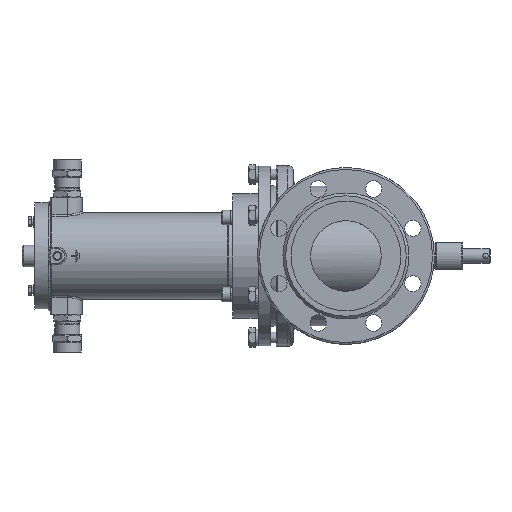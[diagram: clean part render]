
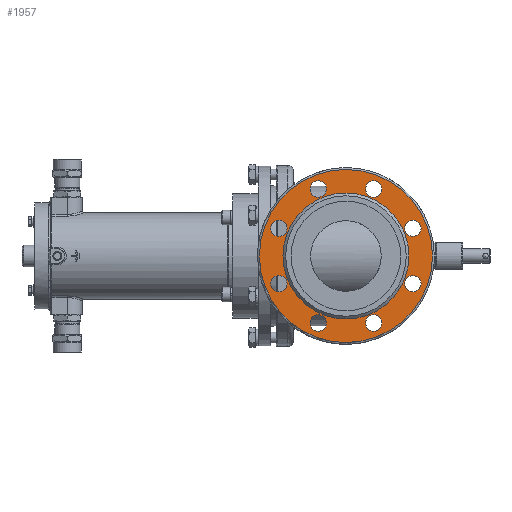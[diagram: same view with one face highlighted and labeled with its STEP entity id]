
A CAD part, left-side view. The second image highlights one B-rep face of the part: STEP entity #1957.
In plain terms, the highlighted planar face has unit normal (-1, 0, 0).
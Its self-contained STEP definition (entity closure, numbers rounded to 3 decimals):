
#1957=ADVANCED_FACE('',(#22015,#22017,#22019,#22021,#22023,#22025,#22027,#22029,
#22031,#22033),#22035,.T.);
#22015=FACE_BOUND('',#22016,.T.);
#22016=EDGE_LOOP('',(#33486));
#22017=FACE_BOUND('',#22018,.T.);
#22018=EDGE_LOOP('',(#33487));
#22019=FACE_BOUND('',#22020,.T.);
#22020=EDGE_LOOP('',(#33488));
#22021=FACE_BOUND('',#22022,.T.);
#22022=EDGE_LOOP('',(#33489));
#22023=FACE_BOUND('',#22024,.T.);
#22024=EDGE_LOOP('',(#33490));
#22025=FACE_BOUND('',#22026,.T.);
#22026=EDGE_LOOP('',(#33491));
#22027=FACE_BOUND('',#22028,.T.);
#22028=EDGE_LOOP('',(#33492));
#22029=FACE_BOUND('',#22030,.T.);
#22030=EDGE_LOOP('',(#33493));
#22031=FACE_BOUND('',#22032,.T.);
#22032=EDGE_LOOP('',(#33494));
#22033=FACE_OUTER_BOUND('',#22034,.T.);
#22034=EDGE_LOOP('',(#33495));
#22035=PLANE('',#22036);
#22036=AXIS2_PLACEMENT_3D('',#22037,#22038,#22039);
#22037=CARTESIAN_POINT('',(-151.,0.,0.));
#22038=DIRECTION('',(-1.,0.,0.));
#22039=DIRECTION('',(0.,1.,0.));
#33486=ORIENTED_EDGE('',*,*,#41424,.T.);
#33487=ORIENTED_EDGE('',*,*,#41422,.T.);
#33488=ORIENTED_EDGE('',*,*,#41420,.T.);
#33489=ORIENTED_EDGE('',*,*,#41418,.T.);
#33490=ORIENTED_EDGE('',*,*,#41416,.T.);
#33491=ORIENTED_EDGE('',*,*,#41414,.T.);
#33492=ORIENTED_EDGE('',*,*,#41412,.T.);
#33493=ORIENTED_EDGE('',*,*,#41410,.T.);
#33494=ORIENTED_EDGE('',*,*,#41449,.F.);
#33495=ORIENTED_EDGE('',*,*,#41450,.T.);
#41410=EDGE_CURVE('',#49886,#49886,#49888,.T.);
#41412=EDGE_CURVE('',#49889,#49889,#49891,.T.);
#41414=EDGE_CURVE('',#49892,#49892,#49894,.T.);
#41416=EDGE_CURVE('',#49895,#49895,#49897,.T.);
#41418=EDGE_CURVE('',#49898,#49898,#49900,.T.);
#41420=EDGE_CURVE('',#49901,#49901,#49903,.T.);
#41422=EDGE_CURVE('',#49904,#49904,#49906,.T.);
#41424=EDGE_CURVE('',#49907,#49907,#49909,.T.);
#41449=EDGE_CURVE('',#49948,#49948,#49949,.T.);
#41450=EDGE_CURVE('',#49950,#49950,#49951,.T.);
#49886=VERTEX_POINT('',#80312);
#49888=CIRCLE('',#80316,9.);
#49889=VERTEX_POINT('',#80320);
#49891=CIRCLE('',#80324,9.);
#49892=VERTEX_POINT('',#80328);
#49894=CIRCLE('',#80332,9.);
#49895=VERTEX_POINT('',#80336);
#49897=CIRCLE('',#80340,9.);
#49898=VERTEX_POINT('',#80344);
#49900=CIRCLE('',#80348,9.);
#49901=VERTEX_POINT('',#80352);
#49903=CIRCLE('',#80356,9.);
#49904=VERTEX_POINT('',#80360);
#49906=CIRCLE('',#80364,9.);
#49907=VERTEX_POINT('',#80368);
#49909=CIRCLE('',#80372,9.);
#49948=VERTEX_POINT('',#80677);
#49949=CIRCLE('',#80678,69.5);
#49950=VERTEX_POINT('',#80682);
#49951=CIRCLE('',#80683,95.5);
#80312=CARTESIAN_POINT('',(-151.,30.615,64.91));
#80316=AXIS2_PLACEMENT_3D('',#80317,#80318,#80319);
#80317=CARTESIAN_POINT('',(-151.,30.615,73.91));
#80318=DIRECTION('',(1.,0.,0.));
#80319=DIRECTION('',(0.,-1.,0.));
#80320=CARTESIAN_POINT('',(-151.,30.615,-82.91));
#80324=AXIS2_PLACEMENT_3D('',#80325,#80326,#80327);
#80325=CARTESIAN_POINT('',(-151.,30.615,-73.91));
#80326=DIRECTION('',(1.,0.,0.));
#80327=DIRECTION('',(0.,-1.,0.));
#80328=CARTESIAN_POINT('',(-151.,73.91,21.615));
#80332=AXIS2_PLACEMENT_3D('',#80333,#80334,#80335);
#80333=CARTESIAN_POINT('',(-151.,73.91,30.615));
#80334=DIRECTION('',(1.,0.,0.));
#80335=DIRECTION('',(0.,-1.,0.));
#80336=CARTESIAN_POINT('',(-151.,-30.615,-82.91));
#80340=AXIS2_PLACEMENT_3D('',#80341,#80342,#80343);
#80341=CARTESIAN_POINT('',(-151.,-30.615,-73.91));
#80342=DIRECTION('',(1.,0.,0.));
#80343=DIRECTION('',(0.,-1.,0.));
#80344=CARTESIAN_POINT('',(-151.,-73.91,21.615));
#80348=AXIS2_PLACEMENT_3D('',#80349,#80350,#80351);
#80349=CARTESIAN_POINT('',(-151.,-73.91,30.615));
#80350=DIRECTION('',(1.,0.,0.));
#80351=DIRECTION('',(0.,-1.,0.));
#80352=CARTESIAN_POINT('',(-151.,-30.615,64.91));
#80356=AXIS2_PLACEMENT_3D('',#80357,#80358,#80359);
#80357=CARTESIAN_POINT('',(-151.,-30.615,73.91));
#80358=DIRECTION('',(1.,0.,0.));
#80359=DIRECTION('',(0.,-1.,0.));
#80360=CARTESIAN_POINT('',(-151.,73.91,-39.615));
#80364=AXIS2_PLACEMENT_3D('',#80365,#80366,#80367);
#80365=CARTESIAN_POINT('',(-151.,73.91,-30.615));
#80366=DIRECTION('',(1.,0.,0.));
#80367=DIRECTION('',(0.,-1.,0.));
#80368=CARTESIAN_POINT('',(-151.,-73.91,-39.615));
#80372=AXIS2_PLACEMENT_3D('',#80373,#80374,#80375);
#80373=CARTESIAN_POINT('',(-151.,-73.91,-30.615));
#80374=DIRECTION('',(1.,0.,0.));
#80375=DIRECTION('',(0.,-1.,0.));
#80677=CARTESIAN_POINT('',(-151.,-69.5,0.));
#80678=AXIS2_PLACEMENT_3D('',#80679,#80680,#80681);
#80679=CARTESIAN_POINT('',(-151.,0.,0.));
#80680=DIRECTION('',(-1.,0.,0.));
#80681=DIRECTION('',(0.,1.,0.));
#80682=CARTESIAN_POINT('',(-151.,-95.5,0.));
#80683=AXIS2_PLACEMENT_3D('',#80684,#80685,#80686);
#80684=CARTESIAN_POINT('',(-151.,0.,0.));
#80685=DIRECTION('',(-1.,0.,0.));
#80686=DIRECTION('',(0.,1.,0.));
